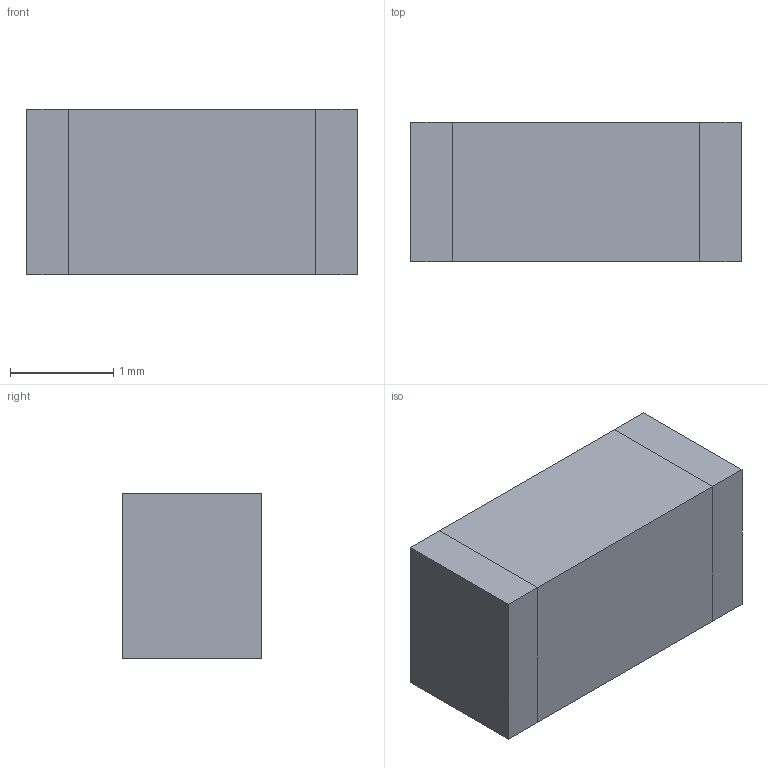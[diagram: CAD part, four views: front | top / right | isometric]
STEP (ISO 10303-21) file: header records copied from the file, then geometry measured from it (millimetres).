
FILE_DESCRIPTION (( 'STEP AP214' ), '1' );
FILE_NAME ('CAN4311712002453K.STEP', '2024-01-29T22:31:46', ( '' ), ( '' ), 'SwSTEP 2.0', 'SolidWorks 2021', '' );
FILE_SCHEMA (( 'AUTOMOTIVE_DESIGN' ));
Length unit declared in the file: millimetre
Products named in the file (1): CAN4311712002453K
Bounding box: 3.2 x 1.35 x 1.6 mm (x, y, z)
Volume: 6.9 mm3; surface area: 32.4 mm2
Topology: 4 solids, 4 shells, 25 faces, 48 edges, 32 vertices
Faces by surface type: plane 21, cylinder 4
Entity records: 691 total; most frequent: DIRECTION 108, CARTESIAN_POINT 106, ORIENTED_EDGE 96, EDGE_CURVE 48, LINE 40, VECTOR 40, AXIS2_PLACEMENT_3D 34, VERTEX_POINT 32
